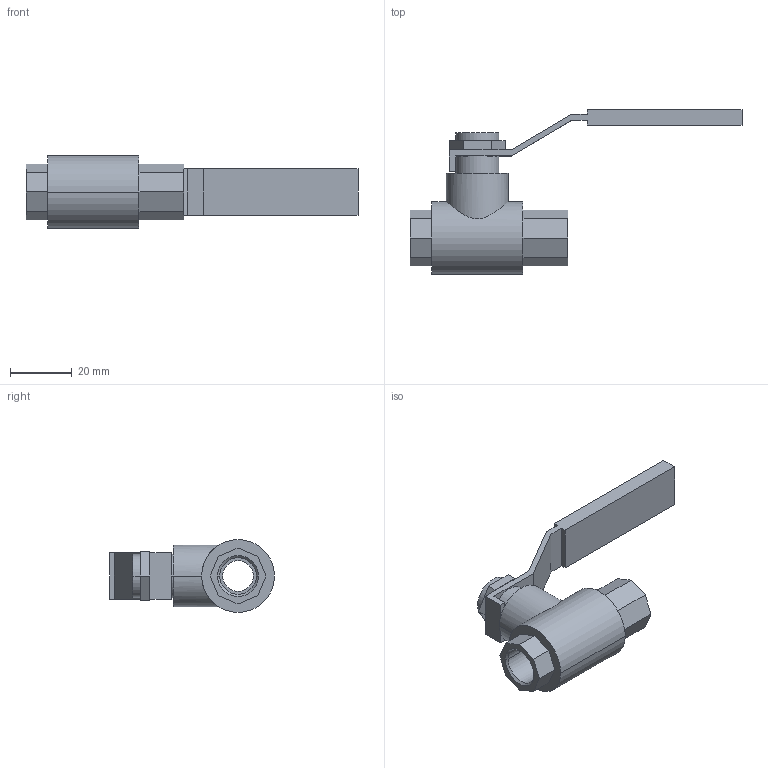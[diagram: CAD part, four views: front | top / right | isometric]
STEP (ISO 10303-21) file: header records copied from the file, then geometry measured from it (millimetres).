
FILE_DESCRIPTION((''),'2;1');
FILE_NAME('3520321500','2023-09-06T16:25:11',('THD3HC'),(''),'CREO PARAMETRIC BY PTC INC, 2020044','CREO PARAMETRIC BY PTC INC, 2020044','');
FILE_SCHEMA(('CONFIG_CONTROL_DESIGN','SHAPE_APPEARANCE_LAYERS_GROUPS'));
Length unit declared in the file: millimetre
Products named in the file (1): 3520321500
Bounding box: 107.25 x 53.25 x 23.5 mm (x, y, z)
Volume: 23334.4 mm3; surface area: 10627.2 mm2
Topology: 1 solids, 1 shells, 69 faces, 168 edges, 108 vertices
Faces by surface type: plane 51, cylinder 14, cone 4
Entity records: 2657 total; most frequent: CARTESIAN_POINT 455, ORIENTED_EDGE 336, DIRECTION 334, EDGE_CURVE 168, VECTOR 136, LINE 136, VERTEX_POINT 108, AXIS2_PLACEMENT_3D 99
